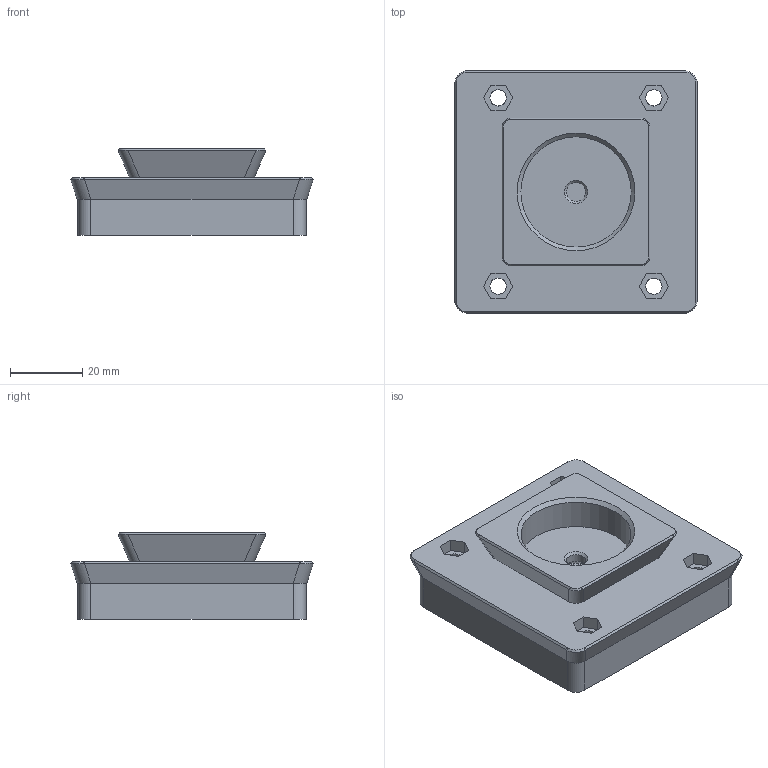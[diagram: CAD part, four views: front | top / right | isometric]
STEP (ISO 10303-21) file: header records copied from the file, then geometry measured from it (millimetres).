
FILE_DESCRIPTION(('FreeCAD Model'),'2;1');
FILE_NAME('Open CASCADE Shape Model','2025-01-22T14:16:20',(''),(''), 'Open CASCADE STEP processor 7.6','FreeCAD','Unknown');
FILE_SCHEMA(('AUTOMOTIVE_DESIGN { 1 0 10303 214 1 1 1 1 }'));
Length unit declared in the file: millimetre
Products named in the file (1): Fusion
Bounding box: 67.02 x 67.02 x 24 mm (x, y, z)
Volume: 68250.2 mm3; surface area: 16102 mm2
Topology: 1 solids, 1 shells, 111 faces, 276 edges, 175 vertices
Faces by surface type: plane 62, bspline 24, cylinder 22, cone 3
Full cylindrical faces by diameter (mm): 4.5 x8, 5.2 x1, 30.5 x1
Entity records: 4022 total; most frequent: CARTESIAN_POINT 1115, ORIENTED_EDGE 552, DIRECTION 459, EDGE_CURVE 276, VERTEX_POINT 175, LINE 173, VECTOR 173, AXIS2_PLACEMENT_3D 143
